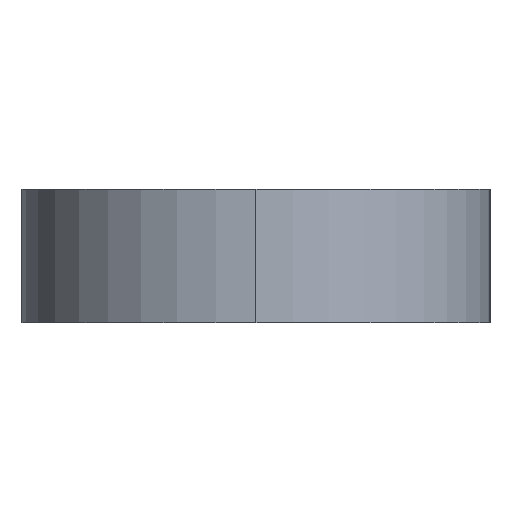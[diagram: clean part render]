
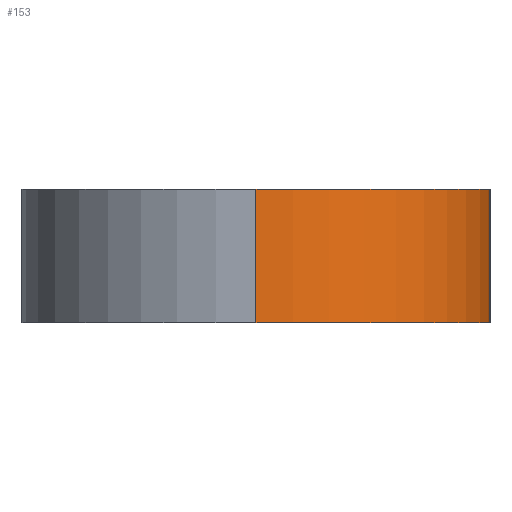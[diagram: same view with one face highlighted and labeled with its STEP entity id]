
A CAD part, left-side view. The second image highlights one B-rep face of the part: STEP entity #153.
In plain terms, the highlighted cylindrical face has radius 7.002 mm (diameter 14.005 mm), a partial arc.
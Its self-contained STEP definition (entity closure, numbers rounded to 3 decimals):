
#5 = CARTESIAN_POINT ( 'NONE',  ( -2., 0., 0. ) ) ;
#7 = DIRECTION ( 'NONE',  ( 0., 0., 1. ) ) ;
#13 = DIRECTION ( 'NONE',  ( 0., 0., -1. ) ) ;
#22 = CARTESIAN_POINT ( 'NONE',  ( -2., 0., 4. ) ) ;
#24 = CYLINDRICAL_SURFACE ( 'NONE', #217, 7.002 ) ;
#31 = DIRECTION ( 'NONE',  ( 1., 0., 0. ) ) ;
#32 = AXIS2_PLACEMENT_3D ( 'NONE', #386, #145, #209 ) ;
#42 = DIRECTION ( 'NONE',  ( -1., 0., 0. ) ) ;
#58 = VECTOR ( 'NONE', #271, 1000. ) ;
#96 = VERTEX_POINT ( 'NONE', #5 ) ;
#100 = CARTESIAN_POINT ( 'NONE',  ( -2.178, 7., 4. ) ) ;
#108 = ORIENTED_EDGE ( 'NONE', *, *, #338, .F. ) ;
#131 = VERTEX_POINT ( 'NONE', #286 ) ;
#134 = EDGE_CURVE ( 'NONE', #131, #291, #310, .T. ) ;
#145 = DIRECTION ( 'NONE',  ( 0., 0., 1. ) ) ;
#146 = LINE ( 'NONE', #208, #58 ) ;
#148 = ORIENTED_EDGE ( 'NONE', *, *, #134, .F. ) ;
#153 = ADVANCED_FACE ( 'NONE', ( #176 ), #24, .T. ) ;
#156 = ORIENTED_EDGE ( 'NONE', *, *, #327, .T. ) ;
#169 = DIRECTION ( 'NONE',  ( 0., 0., -1. ) ) ;
#176 = FACE_OUTER_BOUND ( 'NONE', #329, .T. ) ;
#185 = VECTOR ( 'NONE', #169, 1000. ) ;
#208 = CARTESIAN_POINT ( 'NONE',  ( -2., 0., 4. ) ) ;
#209 = DIRECTION ( 'NONE',  ( 1., 0., 0. ) ) ;
#217 = AXIS2_PLACEMENT_3D ( 'NONE', #100, #13, #42 ) ;
#233 = VERTEX_POINT ( 'NONE', #293 ) ;
#234 = CARTESIAN_POINT ( 'NONE',  ( -9.181, 7., 4. ) ) ;
#257 = CARTESIAN_POINT ( 'NONE',  ( -2.178, 7., 4. ) ) ;
#271 = DIRECTION ( 'NONE',  ( 0., 0., -1. ) ) ;
#277 = ORIENTED_EDGE ( 'NONE', *, *, #285, .T. ) ;
#282 = LINE ( 'NONE', #234, #185 ) ;
#285 = EDGE_CURVE ( 'NONE', #131, #233, #282, .T. ) ;
#286 = CARTESIAN_POINT ( 'NONE',  ( -9.181, 7., 4. ) ) ;
#291 = VERTEX_POINT ( 'NONE', #22 ) ;
#293 = CARTESIAN_POINT ( 'NONE',  ( -9.181, 7., 0. ) ) ;
#310 = CIRCLE ( 'NONE', #378, 7.002 ) ;
#327 = EDGE_CURVE ( 'NONE', #233, #96, #340, .T. ) ;
#329 = EDGE_LOOP ( 'NONE', ( #148, #277, #156, #108 ) ) ;
#338 = EDGE_CURVE ( 'NONE', #291, #96, #146, .T. ) ;
#340 = CIRCLE ( 'NONE', #32, 7.002 ) ;
#378 = AXIS2_PLACEMENT_3D ( 'NONE', #257, #7, #31 ) ;
#386 = CARTESIAN_POINT ( 'NONE',  ( -2.178, 7., 0. ) ) ;
